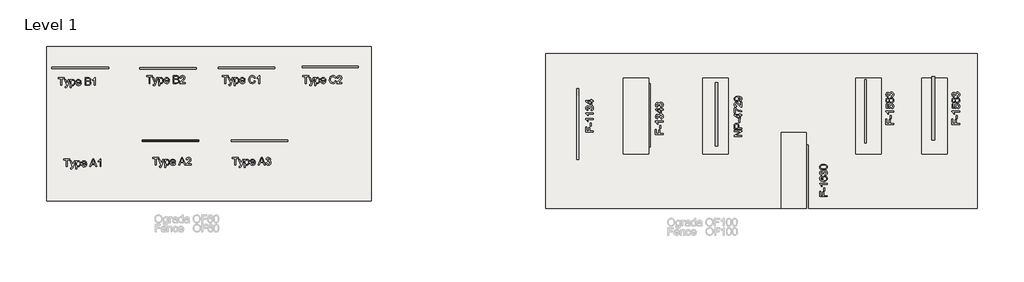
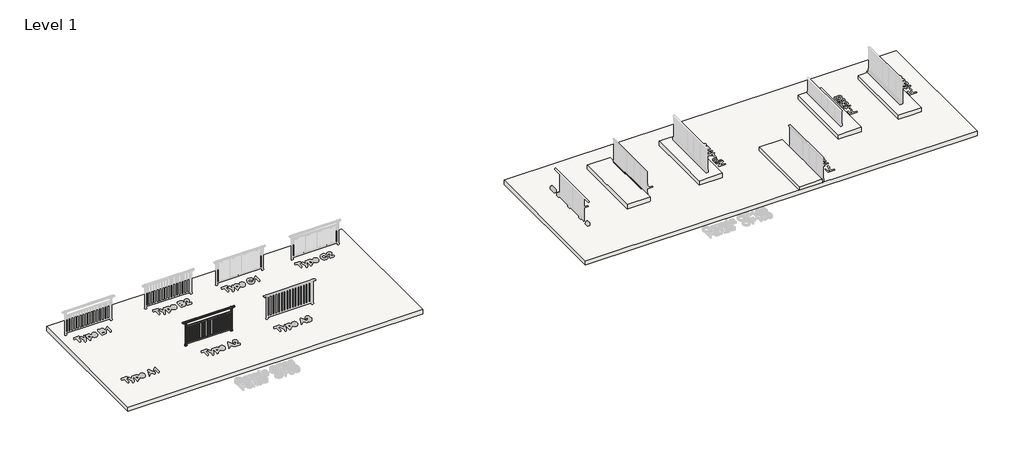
# One storey, part 1 of 9: 7 slabs, 1 railing.
"""IFC4 building model written with IfcOpenShell, lengths in millimetres."""

import ifcopenshell
import ifcopenshell.guid

model = None  # the IFC model being written
_history = None  # IfcOwnerHistory: only IFC2X3 demands one
_inside = {}  # id of a spatial element -> (the spatial element, [elements in it])
_under = {}  # id of a project, library or spatial element -> (it, [spatial elements below it])
_declared = {}  # id of a project -> (the project, [libraries it declares])
_typed = {}  # id of a type object -> (the type object, [elements of that type])
_made_of = {}  # id of a material, layer set ... -> (it, [elements and type objects made of it])


def new_model(schema):
    """Start an empty IFC model of exactly this schema.

    Asked for "IFC4X3", IfcOpenShell would pick the latest addendum, in which some entities
    have other attributes; the version numbers below select the first issue.
    IFC2X3 requires an IfcOwnerHistory on every rooted entity: one is made here for all.
    """
    global model, _history
    if schema == "IFC4X3":
        model = ifcopenshell.file(schema_version=(4, 3, 0, 0))
    else:
        model = ifcopenshell.file(schema=schema)
    _inside.clear()
    _under.clear()
    _declared.clear()
    _typed.clear()
    _made_of.clear()
    _history = None
    if model.schema == "IFC2X3":
        org = make("IfcOrganization", Name="unknown")
        user = make(
            "IfcPersonAndOrganization",
            ThePerson=make("IfcPerson", FamilyName="unknown"),
            TheOrganization=org,
        )
        app = make(
            "IfcApplication",
            ApplicationDeveloper=org,
            Version="unknown",
            ApplicationFullName="unknown",
            ApplicationIdentifier="unknown",
        )
        _history = make(
            "IfcOwnerHistory",
            OwningUser=user,
            OwningApplication=app,
            ChangeAction="ADDED",
            CreationDate=0,
        )
    return model


def make(cls, **values):
    """One entity of the class cls with the attributes given. An attribute that is None is left unset."""
    return model.create_entity(
        cls, **{name: value for name, value in values.items() if value is not None}
    )


def rooted(cls, **values):
    """An entity with a GlobalId (a new one), such as an element, a storey or a relation."""
    return make(cls, GlobalId=ifcopenshell.guid.new(), OwnerHistory=_history, **values)


def si_unit(unit_type, name, prefix=None):
    """IfcSIUnit, for example si_unit("LENGTHUNIT", "METRE", prefix="MILLI")."""
    return make("IfcSIUnit", UnitType=unit_type, Prefix=prefix, Name=name)


def assignment(units):
    """IfcUnitAssignment: the units of a project."""
    return None if units is None else make("IfcUnitAssignment", Units=units)


def point(xyz):
    """IfcCartesianPoint."""
    return None if xyz is None else make("IfcCartesianPoint", Coordinates=xyz)


def direction(xyz):
    """IfcDirection."""
    return None if xyz is None else make("IfcDirection", DirectionRatios=xyz)


def frame(location, z_axis=None, x_axis=None):
    """IfcAxis2Placement3D, a coordinate frame: its origin and axes. An axis left out is left unset."""
    return make(
        "IfcAxis2Placement3D",
        Location=point(location),
        Axis=direction(z_axis),
        RefDirection=direction(x_axis),
    )


def frame_2d(location, x_axis=None):
    """IfcAxis2Placement2D, a coordinate frame in the plane: its origin and x axis."""
    return make(
        "IfcAxis2Placement2D", Location=point(location), RefDirection=direction(x_axis)
    )


def origin():
    """The frame at (0, 0, 0) with its axes left unset."""
    return frame((0.0, 0.0, 0.0))


def origin_with_axes():
    """The frame at (0, 0, 0) with the z axis (0, 0, 1) and the x axis (1, 0, 0) written out."""
    return frame((0.0, 0.0, 0.0), z_axis=(0.0, 0.0, 1.0), x_axis=(1.0, 0.0, 0.0))


def place(relative_to, where):
    """IfcLocalPlacement: puts the frame where relative to a parent placement (None: the world)."""
    return make(
        "IfcLocalPlacement", PlacementRelTo=relative_to, RelativePlacement=where
    )


def context(
    kind, dimensions, precision=None, world=None, true_north=None, identifier=None
):
    """IfcGeometricRepresentationContext, for example the 3D "Model" context."""
    return make(
        "IfcGeometricRepresentationContext",
        ContextIdentifier=identifier,
        ContextType=kind,
        CoordinateSpaceDimension=dimensions,
        Precision=precision,
        WorldCoordinateSystem=world,
        TrueNorth=true_north,
    )


def project(units=None, contexts=None):
    """IfcProject with its units and contexts."""
    return rooted(
        "IfcProject",
        Name="project",
        RepresentationContexts=contexts,
        UnitsInContext=assignment(units),
    )


def spatial(cls, under=None, at=None, **own):
    """A site, building, storey or space (cls), placed at a placement, below another one or the project."""
    s = rooted(cls, ObjectPlacement=at, **own)
    if under is not None:
        _under.setdefault(under.id(), (under, []))[1].append(s)
    return s


def polyline(points):
    """IfcPolyline through the points."""
    return make("IfcPolyline", Points=[point(p) for p in points])


def circle_curve(where, radius):
    """IfcCircle in the frame where."""
    return make("IfcCircle", Position=where, Radius=radius)


def trimmed(basis, trim1, trim2, sense, master):
    """IfcTrimmedCurve: the piece of a basis curve between two trims."""
    return make(
        "IfcTrimmedCurve",
        BasisCurve=basis,
        Trim1=trim1,
        Trim2=trim2,
        SenseAgreement=sense,
        MasterRepresentation=master,
    )


def segment(curve, same_sense, transition):
    """IfcCompositeCurveSegment."""
    return make(
        "IfcCompositeCurveSegment",
        Transition=transition,
        SameSense=same_sense,
        ParentCurve=curve,
    )


def composite_curve(segments, self_intersect=None):
    """IfcCompositeCurve: segments joined end to end."""
    return make("IfcCompositeCurve", Segments=segments, SelfIntersect=self_intersect)


def outline(outer, holes=None, kind="AREA"):
    """IfcArbitraryClosedProfileDef: a profile drawn as a closed curve; with holes, ...WithVoids."""
    if holes is None:
        return make("IfcArbitraryClosedProfileDef", ProfileType=kind, OuterCurve=outer)
    return make(
        "IfcArbitraryProfileDefWithVoids",
        ProfileType=kind,
        OuterCurve=outer,
        InnerCurves=holes,
    )


def extrude(swept, where, along, depth):
    """IfcExtrudedAreaSolid: the profile swept, set in the frame where, extruded along a direction by depth."""
    return make(
        "IfcExtrudedAreaSolid",
        SweptArea=swept,
        Position=where,
        ExtrudedDirection=direction(along),
        Depth=depth,
    )


def shape(context_of_items, identifier, shape_type, items):
    """IfcShapeRepresentation: the items that make up one representation, for example the "Body"."""
    return make(
        "IfcShapeRepresentation",
        ContextOfItems=context_of_items,
        RepresentationIdentifier=identifier,
        RepresentationType=shape_type,
        Items=items,
    )


def made_of(thing, what):
    """Note that an element or type object is made of a material, layer set ...; save() writes the relation."""
    if what is not None:
        _made_of.setdefault(what.id(), (what, []))[1].append(thing)
    return thing


def element(
    cls,
    number,
    at=None,
    inside=None,
    cuts=None,
    type_object=None,
    material=None,
    context=None,
    identifier="Body",
    shape_type=None,
    held_by="IfcProductDefinitionShape",
    body=None,
    shapes=None,
    **own,
):
    """One element of the class cls, such as IfcWall. Its Tag is "e" and its number.

    at: its placement. inside: the storey or other place that contains it. cuts: it is an
    opening in that element (IfcRelVoidsElement). A single representation is given by context,
    identifier, shape_type and body (its items); several are given by shapes. held_by: the class
    of the entity that holds the representations. save() writes the other relations.
    """
    e = rooted(cls, Tag="e%d" % number, ObjectPlacement=at, **own)
    if body is not None:
        shapes = [shape(context, identifier, shape_type, body)]
    if shapes is not None:
        e.Representation = make(held_by, Representations=shapes)
    if inside is not None:
        _inside.setdefault(inside.id(), (inside, []))[1].append(e)
    if cuts is not None:
        rooted(
            "IfcRelVoidsElement", RelatingBuildingElement=cuts, RelatedOpeningElement=e
        )
    if type_object is not None:
        _typed.setdefault(type_object.id(), (type_object, []))[1].append(e)
    return made_of(e, material)


def aggregate(whole, parts):
    """IfcRelAggregates: a whole, such as a stair, and the parts it consists of."""
    return rooted("IfcRelAggregates", RelatingObject=whole, RelatedObjects=parts)


def save(model, path):
    """Write the relations noted so far, then the file.

    IfcRelAggregates (storeys below a building ...), IfcRelContainedInSpatialStructure (elements
    in a storey), IfcRelDefinesByType, IfcRelAssociatesMaterial and IfcRelDeclares: one each for
    every whole, place, type object, material and project.
    """
    for whole, parts in _under.values():
        aggregate(whole, parts)
    for where, things in _inside.values():
        rooted(
            "IfcRelContainedInSpatialStructure",
            RelatedElements=things,
            RelatingStructure=where,
        )
    for kind, things in _typed.values():
        rooted("IfcRelDefinesByType", RelatedObjects=things, RelatingType=kind)
    for what, things in _made_of.values():
        rooted("IfcRelAssociatesMaterial", RelatedObjects=things, RelatingMaterial=what)
    for by, libraries in _declared.values():
        rooted("IfcRelDeclares", RelatingContext=by, RelatedDefinitions=libraries)
    model.write(path)


def plane_surface(at):
    """IfcPlane: the flat surface through the origin of the frame at, square to its z axis."""
    return make("IfcPlane", Position=at)


def cylinder_surface(at, radius):
    """IfcCylindricalSurface: all points at the distance radius from the z axis of the frame at."""
    return make("IfcCylindricalSurface", Position=at, Radius=radius)


def advanced_brep(points, edges, surfaces, faces):
    """IfcAdvancedBrep: a solid bounded by faces that lie on surfaces and meet in shared edges.

    An edge is (start, end): straight between two places in points (the first is 0);
    or (start, end, curve); or (start, end, curve, False) where it runs against its curve.
    A face is (place in surfaces, loops), or (place, loops, False) where it looks against
    its surface's normal. A loop lists edges by number (the first is 1), with a minus sign
    where the edge is run from its end to its start. The first loop is the outer one.
    """
    corners = [point(p) for p in points]
    vertices = [make("IfcVertexPoint", VertexGeometry=c) for c in corners]
    made = []
    for start, end, *more in edges:
        made.append(
            make(
                "IfcEdgeCurve",
                EdgeStart=vertices[start],
                EdgeEnd=vertices[end],
                EdgeGeometry=more[0] if more else make("IfcPolyline", Points=[corners[start], corners[end]]),
                SameSense=more[1] if len(more) > 1 else True,
            )
        )
    hull = []
    for where, loops, *sense in faces:
        bounds = []
        for j, loop in enumerate(loops):
            ring = [make("IfcOrientedEdge", EdgeElement=made[abs(k) - 1], Orientation=k > 0) for k in loop]
            bounds.append(
                make(
                    "IfcFaceOuterBound" if j == 0 else "IfcFaceBound",
                    Bound=make("IfcEdgeLoop", EdgeList=ring),
                    Orientation=True,
                )
            )
        hull.append(make("IfcAdvancedFace", Bounds=bounds, FaceSurface=surfaces[where], SameSense=sense[0] if sense else True))
    return make("IfcAdvancedBrep", Outer=make("IfcClosedShell", CfsFaces=hull))


model = new_model("IFC4")

# Units and contexts
model_context = context("Model", 3, world=origin())
ifc_project = project(units=[si_unit("LENGTHUNIT", "METRE", prefix="MILLI")], contexts=[model_context])

# Site, building, storey
site = spatial("IfcSite", under=ifc_project)
building = spatial("IfcBuilding", under=site)
storey = spatial("IfcBuildingStorey", under=building, Name="Level 1", Elevation=0.0)

# Railing
placement = place(None, origin())
element("IfcRailing", 1, ObjectType="OF 60 TYPE A2", at=placement, inside=storey, context=model_context, shape_type="SolidModel", body=[
    advanced_brep(
    [(420.442876, -911.6139415, 1092.0), (420.442876, -919.6139415, 1100.0), (2420.442876, -919.6139415, 1100.0), (2420.442876, -911.6139415, 1092.0), (420.442876, -911.6139415, 1064.0), (2420.442876, -911.6139415, 1064.0), (420.442876, -915.6139415, 1060.0), (2420.442876, -915.6139415, 1060.0), (420.442876, -967.6139415, 1060.0), (2420.442876, -967.6139415, 1060.0), (420.442876, -971.6139415, 1064.0), (2420.442876, -971.6139415, 1064.0), (420.442876, -971.6139415, 1092.0), (2420.442876, -971.6139415, 1092.0), (420.442876, -963.6139415, 1100.0), (2420.442876, -963.6139415, 1100.0), (303.4448693, -919.6139415, 1100.0), (303.4448693, -911.6139415, 1092.0), (303.4448693, -911.6139415, 1064.0), (303.4448693, -915.6139415, 1060.0), (303.4448693, -967.6139415, 1060.0), (303.4448693, -971.6139415, 1064.0), (303.4448693, -971.6139415, 1092.0), (303.4448693, -963.6139415, 1100.0), (2537.4408826, -919.6139415, 1100.0), (2537.4408826, -963.6139415, 1100.0), (2537.4408826, -971.6139415, 1092.0), (2537.4408826, -971.6139415, 1064.0), (2537.4408826, -967.6139415, 1060.0), (2537.4408826, -915.6139415, 1060.0), (2537.4408826, -911.6139415, 1064.0), (2537.4408826, -911.6139415, 1092.0)],
    [
        (0, 1, circle_curve(frame((420.442876, -919.6139415, 1092.0), z_axis=(1.0, 0.0, 0.0), x_axis=(0.0, 1.0, 0.0)), 8.0)),
        (1, 2),
        (2, 3, circle_curve(frame((2420.442876, -919.6139415, 1092.0), z_axis=(-1.0, 0.0, 0.0), x_axis=(0.0, 1.0, 0.0)), 8.0)),
        (3, 0),
        (4, 0),
        (3, 5),
        (5, 4),
        (6, 4, circle_curve(frame((420.442876, -915.6139415, 1064.0), z_axis=(1.0, 0.0, 0.0), x_axis=(0.0, 0.0, -1.0)), 4.0)),
        (5, 7, circle_curve(frame((2420.442876, -915.6139415, 1064.0), z_axis=(-1.0, 0.0, 0.0), x_axis=(0.0, 0.0, -1.0)), 4.0)),
        (7, 6),
        (8, 6),
        (7, 9),
        (9, 8),
        (10, 8, circle_curve(frame((420.442876, -967.6139415, 1064.0), z_axis=(1.0, 0.0, 0.0), x_axis=(0.0, -1.0, 0.0)), 4.0)),
        (9, 11, circle_curve(frame((2420.442876, -967.6139415, 1064.0), z_axis=(-1.0, 0.0, 0.0), x_axis=(0.0, -1.0, 0.0)), 4.0)),
        (11, 10),
        (12, 10),
        (11, 13),
        (13, 12),
        (14, 12, circle_curve(frame((420.442876, -963.6139415, 1092.0), z_axis=(1.0, 0.0, 0.0), x_axis=(0.0, 0.0, 1.0)), 8.0)),
        (13, 15, circle_curve(frame((2420.442876, -963.6139415, 1092.0), z_axis=(-1.0, 0.0, 0.0), x_axis=(0.0, 0.0, 1.0)), 8.0)),
        (15, 14),
        (1, 14),
        (15, 2),
        (16, 17, circle_curve(frame((303.4448693, -919.6139415, 1092.0), z_axis=(-1.0, 0.0, 0.0), x_axis=(0.0, 1.0, 0.0)), 8.0)),
        (17, 18),
        (18, 19, circle_curve(frame((303.4448693, -915.6139415, 1064.0), z_axis=(-1.0, 0.0, 0.0), x_axis=(0.0, 0.0, -1.0)), 4.0)),
        (19, 20),
        (20, 21, circle_curve(frame((303.4448693, -967.6139415, 1064.0), z_axis=(-1.0, 0.0, 0.0), x_axis=(0.0, -1.0, 0.0)), 4.0)),
        (21, 22),
        (22, 23, circle_curve(frame((303.4448693, -963.6139415, 1092.0), z_axis=(-1.0, 0.0, 0.0), x_axis=(0.0, 0.0, 1.0)), 8.0)),
        (23, 16),
        (16, 1),
        (0, 17),
        (4, 18),
        (6, 19),
        (8, 20),
        (10, 21),
        (12, 22),
        (14, 23),
        (24, 25),
        (25, 26, circle_curve(frame((2537.4408826, -963.6139415, 1092.0), z_axis=(1.0, 0.0, 0.0), x_axis=(0.0, 0.0, 1.0)), 8.0)),
        (26, 27),
        (27, 28, circle_curve(frame((2537.4408826, -967.6139415, 1064.0), z_axis=(1.0, 0.0, 0.0), x_axis=(0.0, -1.0, 0.0)), 4.0)),
        (28, 29),
        (29, 30, circle_curve(frame((2537.4408826, -915.6139415, 1064.0), z_axis=(1.0, 0.0, 0.0), x_axis=(0.0, 0.0, -1.0)), 4.0)),
        (30, 31),
        (31, 24, circle_curve(frame((2537.4408826, -919.6139415, 1092.0), z_axis=(1.0, 0.0, 0.0), x_axis=(0.0, 1.0, 0.0)), 8.0)),
        (2, 24),
        (31, 3),
        (30, 5),
        (29, 7),
        (28, 9),
        (27, 11),
        (26, 13),
        (25, 15),
    ],
    [
        cylinder_surface(frame((420.442876, -919.6139415, 1092.0), z_axis=(-1.0, 0.0, 0.0), x_axis=(0.0, 1.0, 0.0)), 8.0),
        plane_surface(frame((420.442876, -911.6139415, 1092.0), z_axis=(0.0, 1.0, 0.0), x_axis=(1.0, 0.0, 0.0))),
        cylinder_surface(frame((420.442876, -915.6139415, 1064.0), z_axis=(-1.0, 0.0, 0.0), x_axis=(0.0, 0.0, -1.0)), 4.0),
        plane_surface(frame((420.442876, -915.6139415, 1060.0), z_axis=(0.0, 0.0, -1.0), x_axis=(1.0, 0.0, 0.0))),
        cylinder_surface(frame((420.442876, -967.6139415, 1064.0), z_axis=(-1.0, 0.0, 0.0), x_axis=(0.0, -1.0, 0.0)), 4.0),
        plane_surface(frame((420.442876, -971.6139415, 1064.0), z_axis=(0.0, -1.0, 0.0), x_axis=(1.0, 0.0, 0.0))),
        cylinder_surface(frame((420.442876, -963.6139415, 1092.0), z_axis=(-1.0, 0.0, 0.0), x_axis=(0.0, 0.0, 1.0)), 8.0),
        plane_surface(frame((420.442876, -963.6139415, 1100.0), z_axis=(0.0, 0.0, 1.0), x_axis=(1.0, 0.0, 0.0))),
        plane_surface(frame((303.4448693, -911.6139415, 1100.0), z_axis=(-1.0, 0.0, 0.0), x_axis=(0.0, 1.0, 0.0))),
        cylinder_surface(frame((303.4448693, -919.6139415, 1092.0), z_axis=(-1.0, 0.0, 0.0), x_axis=(0.0, 1.0, 0.0)), 8.0),
        plane_surface(frame((303.4448693, -911.6139415, 1092.0), z_axis=(0.0, 1.0, 0.0), x_axis=(1.0, 0.0, 0.0))),
        cylinder_surface(frame((303.4448693, -915.6139415, 1064.0), z_axis=(-1.0, 0.0, 0.0), x_axis=(0.0, 0.0, -1.0)), 4.0),
        plane_surface(frame((303.4448693, -915.6139415, 1060.0), z_axis=(0.0, 0.0, -1.0), x_axis=(1.0, 0.0, 0.0))),
        cylinder_surface(frame((303.4448693, -967.6139415, 1064.0), z_axis=(-1.0, 0.0, 0.0), x_axis=(0.0, -1.0, 0.0)), 4.0),
        plane_surface(frame((303.4448693, -971.6139415, 1064.0), z_axis=(0.0, -1.0, 0.0), x_axis=(1.0, 0.0, 0.0))),
        cylinder_surface(frame((303.4448693, -963.6139415, 1092.0), z_axis=(-1.0, 0.0, 0.0), x_axis=(0.0, 0.0, 1.0)), 8.0),
        plane_surface(frame((303.4448693, -963.6139415, 1100.0), z_axis=(0.0, 0.0, 1.0), x_axis=(1.0, 0.0, 0.0))),
        plane_surface(frame((2537.4408826, -911.6139415, 1100.0), z_axis=(1.0, 0.0, 0.0), x_axis=(0.0, 1.0, 0.0))),
        cylinder_surface(frame((2420.442876, -919.6139415, 1092.0), z_axis=(-1.0, 0.0, 0.0), x_axis=(0.0, 1.0, 0.0)), 8.0),
        plane_surface(frame((2420.442876, -911.6139415, 1092.0), z_axis=(0.0, 1.0, 0.0), x_axis=(1.0, 0.0, 0.0))),
        cylinder_surface(frame((2420.442876, -915.6139415, 1064.0), z_axis=(-1.0, 0.0, 0.0), x_axis=(0.0, 0.0, -1.0)), 4.0),
        plane_surface(frame((2420.442876, -915.6139415, 1060.0), z_axis=(0.0, 0.0, -1.0), x_axis=(1.0, 0.0, 0.0))),
        cylinder_surface(frame((2420.442876, -967.6139415, 1064.0), z_axis=(-1.0, 0.0, 0.0), x_axis=(0.0, -1.0, 0.0)), 4.0),
        plane_surface(frame((2420.442876, -971.6139415, 1064.0), z_axis=(0.0, -1.0, 0.0), x_axis=(1.0, 0.0, 0.0))),
        cylinder_surface(frame((2420.442876, -963.6139415, 1092.0), z_axis=(-1.0, 0.0, 0.0), x_axis=(0.0, 0.0, 1.0)), 8.0),
        plane_surface(frame((2420.442876, -963.6139415, 1100.0), z_axis=(0.0, 0.0, 1.0), x_axis=(1.0, 0.0, 0.0))),
    ],
    [
        (0, [[1, 2, 3, 4]]),
        (1, [[5, -4, 6, 7]]),
        (2, [[8, -7, 9, 10]]),
        (3, [[11, -10, 12, 13]]),
        (4, [[14, -13, 15, 16]]),
        (5, [[17, -16, 18, 19]]),
        (6, [[20, -19, 21, 22]]),
        (7, [[23, -22, 24, -2]]),
        (8, [[25, 26, 27, 28, 29, 30, 31, 32]]),
        (9, [[-25, 33, -1, 34]]),
        (10, [[-26, -34, -5, 35]]),
        (11, [[-27, -35, -8, 36]]),
        (12, [[-28, -36, -11, 37]]),
        (13, [[-29, -37, -14, 38]]),
        (14, [[-30, -38, -17, 39]]),
        (15, [[-31, -39, -20, 40]]),
        (16, [[-32, -40, -23, -33]]),
        (17, [[41, 42, 43, 44, 45, 46, 47, 48]]),
        (18, [[-3, 49, -48, 50]]),
        (19, [[-6, -50, -47, 51]]),
        (20, [[-9, -51, -46, 52]]),
        (21, [[-12, -52, -45, 53]]),
        (22, [[-15, -53, -44, 54]]),
        (23, [[-18, -54, -43, 55]]),
        (24, [[-21, -55, -42, 56]]),
        (25, [[-24, -56, -41, -49]]),
    ],
),
    extrude(outline(polyline([(420.442876, -964.1139415), (420.442876, -924.1139415), (2420.442876, -924.1139415), (2420.442876, -964.1139415), (420.442876, -964.1139415)])), frame((0.0, 0.0, 860.0), z_axis=(0.0, 0.0, 1.0), x_axis=(1.0, 0.0, 0.0)), (0.0, 0.0, 1.0), 40.0),
    extrude(outline(polyline([(420.442876, -964.1139415), (420.442876, -924.1139415), (2420.442876, -924.1139415), (2420.442876, -964.1139415), (420.442876, -964.1139415)])), frame((0.0, 0.0, 80.0), z_axis=(0.0, 0.0, 1.0), x_axis=(1.0, 0.0, 0.0)), (0.0, 0.0, 1.0), 40.0),
    extrude(outline(composite_curve([segment(trimmed(circle_curve(frame_2d((2320.442876, -941.6139415)), 5.0), [point((2315.442876, -941.6139415))], [point((2320.442876, -936.6139415))], False, "CARTESIAN"), True, "CONTINUOUS"), segment(polyline([(2320.442876, -936.6139415), (2360.442876, -936.6139415)]), True, "CONTINUOUS"), segment(trimmed(circle_curve(frame_2d((2360.442876, -941.6139415)), 5.0), [point((2360.442876, -936.6139415))], [point((2365.442876, -941.6139415))], False, "CARTESIAN"), True, "CONTINUOUS"), segment(trimmed(circle_curve(frame_2d((2360.442876, -941.6139415)), 5.0), [point((2365.442876, -941.6139415))], [point((2360.442876, -946.6139415))], False, "CARTESIAN"), True, "CONTINUOUS"), segment(polyline([(2360.442876, -946.6139415), (2320.442876, -946.6139415)]), True, "CONTINUOUS"), segment(trimmed(circle_curve(frame_2d((2320.442876, -941.6139415)), 5.0), [point((2320.442876, -946.6139415))], [point((2315.442876, -941.6139415))], False, "CARTESIAN"), True, "CONTINUOUS")], self_intersect=False)), frame((0.0, 0.0, 120.0), z_axis=(0.0, 0.0, 1.0), x_axis=(1.0, 0.0, 0.0)), (0.0, 0.0, 1.0), 740.0),
    extrude(outline(composite_curve([segment(trimmed(circle_curve(frame_2d((2200.442876, -941.6139415)), 5.0), [point((2195.442876, -941.6139415))], [point((2200.442876, -936.6139415))], False, "CARTESIAN"), True, "CONTINUOUS"), segment(polyline([(2200.442876, -936.6139415), (2240.442876, -936.6139415)]), True, "CONTINUOUS"), segment(trimmed(circle_curve(frame_2d((2240.442876, -941.6139415)), 5.0), [point((2240.442876, -936.6139415))], [point((2245.442876, -941.6139415))], False, "CARTESIAN"), True, "CONTINUOUS"), segment(trimmed(circle_curve(frame_2d((2240.442876, -941.6139415)), 5.0), [point((2245.442876, -941.6139415))], [point((2240.442876, -946.6139415))], False, "CARTESIAN"), True, "CONTINUOUS"), segment(polyline([(2240.442876, -946.6139415), (2200.442876, -946.6139415)]), True, "CONTINUOUS"), segment(trimmed(circle_curve(frame_2d((2200.442876, -941.6139415)), 5.0), [point((2200.442876, -946.6139415))], [point((2195.442876, -941.6139415))], False, "CARTESIAN"), True, "CONTINUOUS")], self_intersect=False)), frame((0.0, 0.0, 120.0), z_axis=(0.0, 0.0, 1.0), x_axis=(1.0, 0.0, 0.0)), (0.0, 0.0, 1.0), 740.0),
    extrude(outline(composite_curve([segment(trimmed(circle_curve(frame_2d((2080.442876, -941.6139415)), 5.0), [point((2075.442876, -941.6139415))], [point((2080.442876, -936.6139415))], False, "CARTESIAN"), True, "CONTINUOUS"), segment(polyline([(2080.442876, -936.6139415), (2120.442876, -936.6139415)]), True, "CONTINUOUS"), segment(trimmed(circle_curve(frame_2d((2120.442876, -941.6139415)), 5.0), [point((2120.442876, -936.6139415))], [point((2125.442876, -941.6139415))], False, "CARTESIAN"), True, "CONTINUOUS"), segment(trimmed(circle_curve(frame_2d((2120.442876, -941.6139415)), 5.0), [point((2125.442876, -941.6139415))], [point((2120.442876, -946.6139415))], False, "CARTESIAN"), True, "CONTINUOUS"), segment(polyline([(2120.442876, -946.6139415), (2080.442876, -946.6139415)]), True, "CONTINUOUS"), segment(trimmed(circle_curve(frame_2d((2080.442876, -941.6139415)), 5.0), [point((2080.442876, -946.6139415))], [point((2075.442876, -941.6139415))], False, "CARTESIAN"), True, "CONTINUOUS")], self_intersect=False)), frame((0.0, 0.0, 120.0), z_axis=(0.0, 0.0, 1.0), x_axis=(1.0, 0.0, 0.0)), (0.0, 0.0, 1.0), 740.0),
    extrude(outline(composite_curve([segment(trimmed(circle_curve(frame_2d((1960.442876, -941.6139415)), 5.0), [point((1955.442876, -941.6139415))], [point((1960.442876, -936.6139415))], False, "CARTESIAN"), True, "CONTINUOUS"), segment(polyline([(1960.442876, -936.6139415), (2000.442876, -936.6139415)]), True, "CONTINUOUS"), segment(trimmed(circle_curve(frame_2d((2000.442876, -941.6139415)), 5.0), [point((2000.442876, -936.6139415))], [point((2005.442876, -941.6139415))], False, "CARTESIAN"), True, "CONTINUOUS"), segment(trimmed(circle_curve(frame_2d((2000.442876, -941.6139415)), 5.0), [point((2005.442876, -941.6139415))], [point((2000.442876, -946.6139415))], False, "CARTESIAN"), True, "CONTINUOUS"), segment(polyline([(2000.442876, -946.6139415), (1960.442876, -946.6139415)]), True, "CONTINUOUS"), segment(trimmed(circle_curve(frame_2d((1960.442876, -941.6139415)), 5.0), [point((1960.442876, -946.6139415))], [point((1955.442876, -941.6139415))], False, "CARTESIAN"), True, "CONTINUOUS")], self_intersect=False)), frame((0.0, 0.0, 120.0), z_axis=(0.0, 0.0, 1.0), x_axis=(1.0, 0.0, 0.0)), (0.0, 0.0, 1.0), 740.0),
    extrude(outline(composite_curve([segment(trimmed(circle_curve(frame_2d((1840.442876, -941.6139415)), 5.0), [point((1835.442876, -941.6139415))], [point((1840.442876, -936.6139415))], False, "CARTESIAN"), True, "CONTINUOUS"), segment(polyline([(1840.442876, -936.6139415), (1880.442876, -936.6139415)]), True, "CONTINUOUS"), segment(trimmed(circle_curve(frame_2d((1880.442876, -941.6139415)), 5.0), [point((1880.442876, -936.6139415))], [point((1885.442876, -941.6139415))], False, "CARTESIAN"), True, "CONTINUOUS"), segment(trimmed(circle_curve(frame_2d((1880.442876, -941.6139415)), 5.0), [point((1885.442876, -941.6139415))], [point((1880.442876, -946.6139415))], False, "CARTESIAN"), True, "CONTINUOUS"), segment(polyline([(1880.442876, -946.6139415), (1840.442876, -946.6139415)]), True, "CONTINUOUS"), segment(trimmed(circle_curve(frame_2d((1840.442876, -941.6139415)), 5.0), [point((1840.442876, -946.6139415))], [point((1835.442876, -941.6139415))], False, "CARTESIAN"), True, "CONTINUOUS")], self_intersect=False)), frame((0.0, 0.0, 120.0), z_axis=(0.0, 0.0, 1.0), x_axis=(1.0, 0.0, 0.0)), (0.0, 0.0, 1.0), 740.0),
    extrude(outline(composite_curve([segment(trimmed(circle_curve(frame_2d((1720.442876, -941.6139415)), 5.0), [point((1715.442876, -941.6139415))], [point((1720.442876, -936.6139415))], False, "CARTESIAN"), True, "CONTINUOUS"), segment(polyline([(1720.442876, -936.6139415), (1760.442876, -936.6139415)]), True, "CONTINUOUS"), segment(trimmed(circle_curve(frame_2d((1760.442876, -941.6139415)), 5.0), [point((1760.442876, -936.6139415))], [point((1765.442876, -941.6139415))], False, "CARTESIAN"), True, "CONTINUOUS"), segment(trimmed(circle_curve(frame_2d((1760.442876, -941.6139415)), 5.0), [point((1765.442876, -941.6139415))], [point((1760.442876, -946.6139415))], False, "CARTESIAN"), True, "CONTINUOUS"), segment(polyline([(1760.442876, -946.6139415), (1720.442876, -946.6139415)]), True, "CONTINUOUS"), segment(trimmed(circle_curve(frame_2d((1720.442876, -941.6139415)), 5.0), [point((1720.442876, -946.6139415))], [point((1715.442876, -941.6139415))], False, "CARTESIAN"), True, "CONTINUOUS")], self_intersect=False)), frame((0.0, 0.0, 120.0), z_axis=(0.0, 0.0, 1.0), x_axis=(1.0, 0.0, 0.0)), (0.0, 0.0, 1.0), 740.0),
    extrude(outline(composite_curve([segment(trimmed(circle_curve(frame_2d((1600.442876, -941.6139415)), 5.0), [point((1595.442876, -941.6139415))], [point((1600.442876, -936.6139415))], False, "CARTESIAN"), True, "CONTINUOUS"), segment(polyline([(1600.442876, -936.6139415), (1640.442876, -936.6139415)]), True, "CONTINUOUS"), segment(trimmed(circle_curve(frame_2d((1640.442876, -941.6139415)), 5.0), [point((1640.442876, -936.6139415))], [point((1645.442876, -941.6139415))], False, "CARTESIAN"), True, "CONTINUOUS"), segment(trimmed(circle_curve(frame_2d((1640.442876, -941.6139415)), 5.0), [point((1645.442876, -941.6139415))], [point((1640.442876, -946.6139415))], False, "CARTESIAN"), True, "CONTINUOUS"), segment(polyline([(1640.442876, -946.6139415), (1600.442876, -946.6139415)]), True, "CONTINUOUS"), segment(trimmed(circle_curve(frame_2d((1600.442876, -941.6139415)), 5.0), [point((1600.442876, -946.6139415))], [point((1595.442876, -941.6139415))], False, "CARTESIAN"), True, "CONTINUOUS")], self_intersect=False)), frame((0.0, 0.0, 120.0), z_axis=(0.0, 0.0, 1.0), x_axis=(1.0, 0.0, 0.0)), (0.0, 0.0, 1.0), 740.0),
    extrude(outline(composite_curve([segment(trimmed(circle_curve(frame_2d((1480.442876, -941.6139415)), 5.0), [point((1475.442876, -941.6139415))], [point((1480.442876, -936.6139415))], False, "CARTESIAN"), True, "CONTINUOUS"), segment(polyline([(1480.442876, -936.6139415), (1520.442876, -936.6139415)]), True, "CONTINUOUS"), segment(trimmed(circle_curve(frame_2d((1520.442876, -941.6139415)), 5.0), [point((1520.442876, -936.6139415))], [point((1525.442876, -941.6139415))], False, "CARTESIAN"), True, "CONTINUOUS"), segment(trimmed(circle_curve(frame_2d((1520.442876, -941.6139415)), 5.0), [point((1525.442876, -941.6139415))], [point((1520.442876, -946.6139415))], False, "CARTESIAN"), True, "CONTINUOUS"), segment(polyline([(1520.442876, -946.6139415), (1480.442876, -946.6139415)]), True, "CONTINUOUS"), segment(trimmed(circle_curve(frame_2d((1480.442876, -941.6139415)), 5.0), [point((1480.442876, -946.6139415))], [point((1475.442876, -941.6139415))], False, "CARTESIAN"), True, "CONTINUOUS")], self_intersect=False)), frame((0.0, 0.0, 120.0), z_axis=(0.0, 0.0, 1.0), x_axis=(1.0, 0.0, 0.0)), (0.0, 0.0, 1.0), 740.0),
    extrude(outline(composite_curve([segment(trimmed(circle_curve(frame_2d((1360.442876, -941.6139415)), 5.0), [point((1355.442876, -941.6139415))], [point((1360.442876, -936.6139415))], False, "CARTESIAN"), True, "CONTINUOUS"), segment(polyline([(1360.442876, -936.6139415), (1400.442876, -936.6139415)]), True, "CONTINUOUS"), segment(trimmed(circle_curve(frame_2d((1400.442876, -941.6139415)), 5.0), [point((1400.442876, -936.6139415))], [point((1405.442876, -941.6139415))], False, "CARTESIAN"), True, "CONTINUOUS"), segment(trimmed(circle_curve(frame_2d((1400.442876, -941.6139415)), 5.0), [point((1405.442876, -941.6139415))], [point((1400.442876, -946.6139415))], False, "CARTESIAN"), True, "CONTINUOUS"), segment(polyline([(1400.442876, -946.6139415), (1360.442876, -946.6139415)]), True, "CONTINUOUS"), segment(trimmed(circle_curve(frame_2d((1360.442876, -941.6139415)), 5.0), [point((1360.442876, -946.6139415))], [point((1355.442876, -941.6139415))], False, "CARTESIAN"), True, "CONTINUOUS")], self_intersect=False)), frame((0.0, 0.0, 120.0), z_axis=(0.0, 0.0, 1.0), x_axis=(1.0, 0.0, 0.0)), (0.0, 0.0, 1.0), 740.0),
    extrude(outline(composite_curve([segment(trimmed(circle_curve(frame_2d((1240.442876, -941.6139415)), 5.0), [point((1235.442876, -941.6139415))], [point((1240.442876, -936.6139415))], False, "CARTESIAN"), True, "CONTINUOUS"), segment(polyline([(1240.442876, -936.6139415), (1280.442876, -936.6139415)]), True, "CONTINUOUS"), segment(trimmed(circle_curve(frame_2d((1280.442876, -941.6139415)), 5.0), [point((1280.442876, -936.6139415))], [point((1285.442876, -941.6139415))], False, "CARTESIAN"), True, "CONTINUOUS"), segment(trimmed(circle_curve(frame_2d((1280.442876, -941.6139415)), 5.0), [point((1285.442876, -941.6139415))], [point((1280.442876, -946.6139415))], False, "CARTESIAN"), True, "CONTINUOUS"), segment(polyline([(1280.442876, -946.6139415), (1240.442876, -946.6139415)]), True, "CONTINUOUS"), segment(trimmed(circle_curve(frame_2d((1240.442876, -941.6139415)), 5.0), [point((1240.442876, -946.6139415))], [point((1235.442876, -941.6139415))], False, "CARTESIAN"), True, "CONTINUOUS")], self_intersect=False)), frame((0.0, 0.0, 120.0), z_axis=(0.0, 0.0, 1.0), x_axis=(1.0, 0.0, 0.0)), (0.0, 0.0, 1.0), 740.0),
    extrude(outline(composite_curve([segment(trimmed(circle_curve(frame_2d((1120.442876, -941.6139415)), 5.0), [point((1115.442876, -941.6139415))], [point((1120.442876, -936.6139415))], False, "CARTESIAN"), True, "CONTINUOUS"), segment(polyline([(1120.442876, -936.6139415), (1160.442876, -936.6139415)]), True, "CONTINUOUS"), segment(trimmed(circle_curve(frame_2d((1160.442876, -941.6139415)), 5.0), [point((1160.442876, -936.6139415))], [point((1165.442876, -941.6139415))], False, "CARTESIAN"), True, "CONTINUOUS"), segment(trimmed(circle_curve(frame_2d((1160.442876, -941.6139415)), 5.0), [point((1165.442876, -941.6139415))], [point((1160.442876, -946.6139415))], False, "CARTESIAN"), True, "CONTINUOUS"), segment(polyline([(1160.442876, -946.6139415), (1120.442876, -946.6139415)]), True, "CONTINUOUS"), segment(trimmed(circle_curve(frame_2d((1120.442876, -941.6139415)), 5.0), [point((1120.442876, -946.6139415))], [point((1115.442876, -941.6139415))], False, "CARTESIAN"), True, "CONTINUOUS")], self_intersect=False)), frame((0.0, 0.0, 120.0), z_axis=(0.0, 0.0, 1.0), x_axis=(1.0, 0.0, 0.0)), (0.0, 0.0, 1.0), 740.0),
    extrude(outline(composite_curve([segment(trimmed(circle_curve(frame_2d((1000.442876, -941.6139415)), 5.0), [point((995.442876, -941.6139415))], [point((1000.442876, -936.6139415))], False, "CARTESIAN"), True, "CONTINUOUS"), segment(polyline([(1000.442876, -936.6139415), (1040.442876, -936.6139415)]), True, "CONTINUOUS"), segment(trimmed(circle_curve(frame_2d((1040.442876, -941.6139415)), 5.0), [point((1040.442876, -936.6139415))], [point((1045.442876, -941.6139415))], False, "CARTESIAN"), True, "CONTINUOUS"), segment(trimmed(circle_curve(frame_2d((1040.442876, -941.6139415)), 5.0), [point((1045.442876, -941.6139415))], [point((1040.442876, -946.6139415))], False, "CARTESIAN"), True, "CONTINUOUS"), segment(polyline([(1040.442876, -946.6139415), (1000.442876, -946.6139415)]), True, "CONTINUOUS"), segment(trimmed(circle_curve(frame_2d((1000.442876, -941.6139415)), 5.0), [point((1000.442876, -946.6139415))], [point((995.442876, -941.6139415))], False, "CARTESIAN"), True, "CONTINUOUS")], self_intersect=False)), frame((0.0, 0.0, 120.0), z_axis=(0.0, 0.0, 1.0), x_axis=(1.0, 0.0, 0.0)), (0.0, 0.0, 1.0), 740.0),
    extrude(outline(composite_curve([segment(trimmed(circle_curve(frame_2d((880.442876, -941.6139415)), 5.0), [point((875.442876, -941.6139415))], [point((880.442876, -936.6139415))], False, "CARTESIAN"), True, "CONTINUOUS"), segment(polyline([(880.442876, -936.6139415), (920.442876, -936.6139415)]), True, "CONTINUOUS"), segment(trimmed(circle_curve(frame_2d((920.442876, -941.6139415)), 5.0), [point((920.442876, -936.6139415))], [point((925.442876, -941.6139415))], False, "CARTESIAN"), True, "CONTINUOUS"), segment(trimmed(circle_curve(frame_2d((920.442876, -941.6139415)), 5.0), [point((925.442876, -941.6139415))], [point((920.442876, -946.6139415))], False, "CARTESIAN"), True, "CONTINUOUS"), segment(polyline([(920.442876, -946.6139415), (880.442876, -946.6139415)]), True, "CONTINUOUS"), segment(trimmed(circle_curve(frame_2d((880.442876, -941.6139415)), 5.0), [point((880.442876, -946.6139415))], [point((875.442876, -941.6139415))], False, "CARTESIAN"), True, "CONTINUOUS")], self_intersect=False)), frame((0.0, 0.0, 120.0), z_axis=(0.0, 0.0, 1.0), x_axis=(1.0, 0.0, 0.0)), (0.0, 0.0, 1.0), 740.0),
    extrude(outline(composite_curve([segment(trimmed(circle_curve(frame_2d((760.442876, -941.6139415)), 5.0), [point((755.442876, -941.6139415))], [point((760.442876, -936.6139415))], False, "CARTESIAN"), True, "CONTINUOUS"), segment(polyline([(760.442876, -936.6139415), (800.442876, -936.6139415)]), True, "CONTINUOUS"), segment(trimmed(circle_curve(frame_2d((800.442876, -941.6139415)), 5.0), [point((800.442876, -936.6139415))], [point((805.442876, -941.6139415))], False, "CARTESIAN"), True, "CONTINUOUS"), segment(trimmed(circle_curve(frame_2d((800.442876, -941.6139415)), 5.0), [point((805.442876, -941.6139415))], [point((800.442876, -946.6139415))], False, "CARTESIAN"), True, "CONTINUOUS"), segment(polyline([(800.442876, -946.6139415), (760.442876, -946.6139415)]), True, "CONTINUOUS"), segment(trimmed(circle_curve(frame_2d((760.442876, -941.6139415)), 5.0), [point((760.442876, -946.6139415))], [point((755.442876, -941.6139415))], False, "CARTESIAN"), True, "CONTINUOUS")], self_intersect=False)), frame((0.0, 0.0, 120.0), z_axis=(0.0, 0.0, 1.0), x_axis=(1.0, 0.0, 0.0)), (0.0, 0.0, 1.0), 740.0),
    extrude(outline(composite_curve([segment(trimmed(circle_curve(frame_2d((640.442876, -941.6139415)), 5.0), [point((635.442876, -941.6139415))], [point((640.442876, -936.6139415))], False, "CARTESIAN"), True, "CONTINUOUS"), segment(polyline([(640.442876, -936.6139415), (680.442876, -936.6139415)]), True, "CONTINUOUS"), segment(trimmed(circle_curve(frame_2d((680.442876, -941.6139415)), 5.0), [point((680.442876, -936.6139415))], [point((685.442876, -941.6139415))], False, "CARTESIAN"), True, "CONTINUOUS"), segment(trimmed(circle_curve(frame_2d((680.442876, -941.6139415)), 5.0), [point((685.442876, -941.6139415))], [point((680.442876, -946.6139415))], False, "CARTESIAN"), True, "CONTINUOUS"), segment(polyline([(680.442876, -946.6139415), (640.442876, -946.6139415)]), True, "CONTINUOUS"), segment(trimmed(circle_curve(frame_2d((640.442876, -941.6139415)), 5.0), [point((640.442876, -946.6139415))], [point((635.442876, -941.6139415))], False, "CARTESIAN"), True, "CONTINUOUS")], self_intersect=False)), frame((0.0, 0.0, 120.0), z_axis=(0.0, 0.0, 1.0), x_axis=(1.0, 0.0, 0.0)), (0.0, 0.0, 1.0), 740.0),
    extrude(outline(composite_curve([segment(trimmed(circle_curve(frame_2d((520.442876, -941.6139415)), 5.0), [point((515.442876, -941.6139415))], [point((520.442876, -936.6139415))], False, "CARTESIAN"), True, "CONTINUOUS"), segment(polyline([(520.442876, -936.6139415), (560.442876, -936.6139415)]), True, "CONTINUOUS"), segment(trimmed(circle_curve(frame_2d((560.442876, -941.6139415)), 5.0), [point((560.442876, -936.6139415))], [point((565.442876, -941.6139415))], False, "CARTESIAN"), True, "CONTINUOUS"), segment(trimmed(circle_curve(frame_2d((560.442876, -941.6139415)), 5.0), [point((565.442876, -941.6139415))], [point((560.442876, -946.6139415))], False, "CARTESIAN"), True, "CONTINUOUS"), segment(polyline([(560.442876, -946.6139415), (520.442876, -946.6139415)]), True, "CONTINUOUS"), segment(trimmed(circle_curve(frame_2d((520.442876, -941.6139415)), 5.0), [point((520.442876, -946.6139415))], [point((515.442876, -941.6139415))], False, "CARTESIAN"), True, "CONTINUOUS")], self_intersect=False)), frame((0.0, 0.0, 120.0), z_axis=(0.0, 0.0, 1.0), x_axis=(1.0, 0.0, 0.0)), (0.0, 0.0, 1.0), 740.0),
    extrude(outline(composite_curve([segment(polyline([(2426.9733759, -967.6023402), (2412.942876, -969.3639415), (2402.942876, -969.3639415), (2388.9123761, -967.6023402)]), True, "CONTINUOUS"), segment(trimmed(circle_curve(frame_2d((2389.0618686, -966.4116883)), 1.2), [point((2388.9123761, -967.6023402))], [point((2387.8656248, -966.5065611))], False, "CARTESIAN"), True, "CONTINUOUS"), segment(polyline([(2387.8656248, -966.5065611), (2386.8708827, -953.9639415)]), True, "CONTINUOUS"), segment(trimmed(circle_curve(frame_2d((2622.1627703, -941.6139415)), 235.6157782), [point((2386.8708827, -953.9639415))], [point((2386.8708827, -929.2639414))], False, "CARTESIAN"), True, "CONTINUOUS"), segment(polyline([(2386.8708827, -929.2639414), (2387.8656248, -916.7213218)]), True, "CONTINUOUS"), segment(trimmed(circle_curve(frame_2d((2389.0618686, -916.8161946)), 1.2), [point((2387.8656248, -916.7213218))], [point((2388.9123761, -915.6255427))], False, "CARTESIAN"), True, "CONTINUOUS"), segment(polyline([(2388.9123761, -915.6255427), (2402.942876, -913.8639414), (2412.942876, -913.8639414), (2426.9733759, -915.6255427)]), True, "CONTINUOUS"), segment(trimmed(circle_curve(frame_2d((2426.8238834, -916.8161946)), 1.2), [point((2426.9733759, -915.6255427))], [point((2428.0201272, -916.7213218))], False, "CARTESIAN"), True, "CONTINUOUS"), segment(polyline([(2428.0201272, -916.7213218), (2429.0148693, -929.2639414)]), True, "CONTINUOUS"), segment(trimmed(circle_curve(frame_2d((2193.7229816, -941.6139415)), 235.6157782), [point((2429.0148693, -929.2639414))], [point((2429.0148693, -953.9639415))], False, "CARTESIAN"), True, "CONTINUOUS"), segment(polyline([(2429.0148693, -953.9639415), (2428.0201272, -966.5065611)]), True, "CONTINUOUS"), segment(trimmed(circle_curve(frame_2d((2426.8238834, -966.4116883)), 1.2), [point((2428.0201272, -966.5065611))], [point((2426.9733759, -967.6023402))], False, "CARTESIAN"), True, "CONTINUOUS")], self_intersect=False), holes=[polyline([(2418.442876, -921.1139414), (2397.442876, -921.1139414), (2397.442876, -962.1139415), (2418.442876, -962.1139415), (2418.442876, -921.1139414)])]), origin_with_axes(), (0.0, 0.0, 1.0), 71.6433898),
    extrude(outline(composite_curve([segment(trimmed(circle_curve(frame_2d((2450.9870756, -947.4639415)), 6.5), [point((2457.4870756, -947.4639415))], [point((2450.9870756, -953.9639415))], False, "CARTESIAN"), True, "CONTINUOUS"), segment(polyline([(2450.9870756, -953.9639415), (2372.9830889, -953.9639415)]), True, "CONTINUOUS"), segment(trimmed(circle_curve(frame_2d((2372.9830889, -947.4639415)), 6.5), [point((2372.9830889, -953.9639415))], [point((2366.4830889, -947.4639415))], False, "CARTESIAN"), True, "CONTINUOUS"), segment(polyline([(2366.4830889, -947.4639415), (2366.4830889, -935.7639415)]), True, "CONTINUOUS"), segment(trimmed(circle_curve(frame_2d((2372.9830889, -935.7639415)), 6.5), [point((2366.4830889, -935.7639415))], [point((2372.9830889, -929.2639415))], False, "CARTESIAN"), True, "CONTINUOUS"), segment(polyline([(2372.9830889, -929.2639415), (2450.9870756, -929.2639415)]), True, "CONTINUOUS"), segment(trimmed(circle_curve(frame_2d((2450.9870756, -935.7639415)), 6.5), [point((2450.9870756, -929.2639415))], [point((2457.4870756, -935.7639415))], False, "CARTESIAN"), True, "CONTINUOUS"), segment(polyline([(2457.4870756, -935.7639415), (2457.4870756, -947.4639415)]), True, "CONTINUOUS")], self_intersect=False), holes=[composite_curve([segment(trimmed(circle_curve(frame_2d((2446.5570756, -943.4639415)), 5.0), [point((2443.6429815, -947.5269521))], [point((2451.5570756, -943.4639415))], True, "CARTESIAN"), True, "CONTINUOUS"), segment(polyline([(2451.5570756, -943.4639415), (2451.5570756, -939.7639415)]), True, "CONTINUOUS"), segment(trimmed(circle_curve(frame_2d((2446.5570756, -939.7639415)), 5.0), [point((2451.5570756, -939.7639415))], [point((2443.6429815, -935.7009308))], True, "CARTESIAN"), True, "CONTINUOUS"), segment(polyline([(2443.6429815, -935.7009308), (2441.2349941, -937.1858564)]), True, "CONTINUOUS"), segment(trimmed(circle_curve(frame_2d((2443.5570756, -941.6139415)), 5.0), [point((2441.2349941, -937.1858564))], [point((2441.2349941, -946.0420265))], True, "CARTESIAN"), True, "CONTINUOUS"), segment(polyline([(2441.2349941, -946.0420265), (2443.6429815, -947.5269521)]), True, "CONTINUOUS")], self_intersect=False), composite_curve([segment(trimmed(circle_curve(frame_2d((2377.4130889, -943.4639415)), 5.0), [point((2372.4130889, -943.4639415))], [point((2380.3271831, -947.5269521))], True, "CARTESIAN"), True, "CONTINUOUS"), segment(polyline([(2380.3271831, -947.5269521), (2382.7351705, -946.0420265)]), True, "CONTINUOUS"), segment(trimmed(circle_curve(frame_2d((2380.4130889, -941.6139415)), 5.0), [point((2382.7351705, -946.0420265))], [point((2382.7351705, -937.1858564))], True, "CARTESIAN"), True, "CONTINUOUS"), segment(polyline([(2382.7351705, -937.1858564), (2380.3271831, -935.7009308)]), True, "CONTINUOUS"), segment(trimmed(circle_curve(frame_2d((2377.4130889, -939.7639415)), 5.0), [point((2380.3271831, -935.7009308))], [point((2372.4130889, -939.7639415))], True, "CARTESIAN"), True, "CONTINUOUS"), segment(polyline([(2372.4130889, -939.7639415), (2372.4130889, -943.4639415)]), True, "CONTINUOUS")], self_intersect=False)]), origin_with_axes(), (0.0, 0.0, 1.0), 32.0),
    extrude(outline(polyline([(2388.942876, -916.6139415), (2426.942876, -916.6139415), (2426.942876, -966.6139415), (2388.942876, -966.6139415), (2388.942876, -916.6139415)])), origin_with_axes(), (0.0, 0.0, 1.0), 1060.0),
    extrude(outline(composite_curve([segment(polyline([(451.9733759, -967.6023402), (437.942876, -969.3639415), (427.942876, -969.3639415), (413.9123761, -967.6023402)]), True, "CONTINUOUS"), segment(trimmed(circle_curve(frame_2d((414.0618686, -966.4116883)), 1.2), [point((413.9123761, -967.6023402))], [point((412.8656248, -966.5065611))], False, "CARTESIAN"), True, "CONTINUOUS"), segment(polyline([(412.8656248, -966.5065611), (411.8708827, -953.9639415)]), True, "CONTINUOUS"), segment(trimmed(circle_curve(frame_2d((647.1627703, -941.6139415)), 235.6157782), [point((411.8708827, -953.9639415))], [point((411.8708827, -929.2639414))], False, "CARTESIAN"), True, "CONTINUOUS"), segment(polyline([(411.8708827, -929.2639414), (412.8656248, -916.7213218)]), True, "CONTINUOUS"), segment(trimmed(circle_curve(frame_2d((414.0618686, -916.8161946)), 1.2), [point((412.8656248, -916.7213218))], [point((413.9123761, -915.6255427))], False, "CARTESIAN"), True, "CONTINUOUS"), segment(polyline([(413.9123761, -915.6255427), (427.942876, -913.8639414), (437.942876, -913.8639414), (451.9733759, -915.6255427)]), True, "CONTINUOUS"), segment(trimmed(circle_curve(frame_2d((451.8238834, -916.8161946)), 1.2), [point((451.9733759, -915.6255427))], [point((453.0201272, -916.7213218))], False, "CARTESIAN"), True, "CONTINUOUS"), segment(polyline([(453.0201272, -916.7213218), (454.0148693, -929.2639414)]), True, "CONTINUOUS"), segment(trimmed(circle_curve(frame_2d((218.7229816, -941.6139415)), 235.6157782), [point((454.0148693, -929.2639414))], [point((454.0148693, -953.9639415))], False, "CARTESIAN"), True, "CONTINUOUS"), segment(polyline([(454.0148693, -953.9639415), (453.0201272, -966.5065611)]), True, "CONTINUOUS"), segment(trimmed(circle_curve(frame_2d((451.8238834, -966.4116883)), 1.2), [point((453.0201272, -966.5065611))], [point((451.9733759, -967.6023402))], False, "CARTESIAN"), True, "CONTINUOUS")], self_intersect=False), holes=[polyline([(443.442876, -921.1139414), (422.442876, -921.1139414), (422.442876, -962.1139415), (443.442876, -962.1139415), (443.442876, -921.1139414)])]), origin_with_axes(), (0.0, 0.0, 1.0), 71.6433898),
    extrude(outline(composite_curve([segment(trimmed(circle_curve(frame_2d((475.9870756, -947.4639415)), 6.5), [point((482.4870756, -947.4639415))], [point((475.9870756, -953.9639415))], False, "CARTESIAN"), True, "CONTINUOUS"), segment(polyline([(475.9870756, -953.9639415), (397.9830889, -953.9639415)]), True, "CONTINUOUS"), segment(trimmed(circle_curve(frame_2d((397.9830889, -947.4639415)), 6.5), [point((397.9830889, -953.9639415))], [point((391.4830889, -947.4639415))], False, "CARTESIAN"), True, "CONTINUOUS"), segment(polyline([(391.4830889, -947.4639415), (391.4830889, -935.7639415)]), True, "CONTINUOUS"), segment(trimmed(circle_curve(frame_2d((397.9830889, -935.7639415)), 6.5), [point((391.4830889, -935.7639415))], [point((397.9830889, -929.2639415))], False, "CARTESIAN"), True, "CONTINUOUS"), segment(polyline([(397.9830889, -929.2639415), (475.9870756, -929.2639415)]), True, "CONTINUOUS"), segment(trimmed(circle_curve(frame_2d((475.9870756, -935.7639415)), 6.5), [point((475.9870756, -929.2639415))], [point((482.4870756, -935.7639415))], False, "CARTESIAN"), True, "CONTINUOUS"), segment(polyline([(482.4870756, -935.7639415), (482.4870756, -947.4639415)]), True, "CONTINUOUS")], self_intersect=False), holes=[composite_curve([segment(trimmed(circle_curve(frame_2d((471.5570756, -943.4639415)), 5.0), [point((468.6429815, -947.5269521))], [point((476.5570756, -943.4639415))], True, "CARTESIAN"), True, "CONTINUOUS"), segment(polyline([(476.5570756, -943.4639415), (476.5570756, -939.7639415)]), True, "CONTINUOUS"), segment(trimmed(circle_curve(frame_2d((471.5570756, -939.7639415)), 5.0), [point((476.5570756, -939.7639415))], [point((468.6429815, -935.7009308))], True, "CARTESIAN"), True, "CONTINUOUS"), segment(polyline([(468.6429815, -935.7009308), (466.2349941, -937.1858564)]), True, "CONTINUOUS"), segment(trimmed(circle_curve(frame_2d((468.5570756, -941.6139415)), 5.0), [point((466.2349941, -937.1858564))], [point((466.2349941, -946.0420265))], True, "CARTESIAN"), True, "CONTINUOUS"), segment(polyline([(466.2349941, -946.0420265), (468.6429815, -947.5269521)]), True, "CONTINUOUS")], self_intersect=False), composite_curve([segment(trimmed(circle_curve(frame_2d((402.4130889, -943.4639415)), 5.0), [point((397.4130889, -943.4639415))], [point((405.3271831, -947.5269521))], True, "CARTESIAN"), True, "CONTINUOUS"), segment(polyline([(405.3271831, -947.5269521), (407.7351705, -946.0420265)]), True, "CONTINUOUS"), segment(trimmed(circle_curve(frame_2d((405.4130889, -941.6139415)), 5.0), [point((407.7351705, -946.0420265))], [point((407.7351705, -937.1858564))], True, "CARTESIAN"), True, "CONTINUOUS"), segment(polyline([(407.7351705, -937.1858564), (405.3271831, -935.7009308)]), True, "CONTINUOUS"), segment(trimmed(circle_curve(frame_2d((402.4130889, -939.7639415)), 5.0), [point((405.3271831, -935.7009308))], [point((397.4130889, -939.7639415))], True, "CARTESIAN"), True, "CONTINUOUS"), segment(polyline([(397.4130889, -939.7639415), (397.4130889, -943.4639415)]), True, "CONTINUOUS")], self_intersect=False)]), origin_with_axes(), (0.0, 0.0, 1.0), 32.0),
    extrude(outline(polyline([(413.942876, -916.6139415), (451.942876, -916.6139415), (451.942876, -966.6139415), (413.942876, -966.6139415), (413.942876, -916.6139415)])), origin_with_axes(), (0.0, 0.0, 1.0), 1060.0),
])

# Slabs
element("IfcSlab", 2, ObjectType="150", at=placement, inside=storey, context=model_context, shape_type="SweptSolid", body=[
    extrude(outline(polyline([(26478.3479389, -620.8193113), (26478.3479389, -3620.8193113), (25478.3479389, -3620.8193113), (25478.3479389, -620.8193113), (26478.3479389, -620.8193113)])), origin_with_axes(), (0.0, 0.0, 1.0), 150.0),
])
element("IfcSlab", 3, ObjectType="Generic Floor - 200mm", at=placement, inside=storey, context=model_context, shape_type="SweptSolid", body=[
    extrude(outline(polyline([(9338.6483074, 2771.5724145), (9338.6483074, -3328.4275855), (-3461.3516926, -3328.4275855), (-3461.3516926, 2771.5724145), (9338.6483074, 2771.5724145)])), frame((0.0, 0.0, -200.0), z_axis=(0.0, 0.0, 1.0), x_axis=(1.0, 0.0, 0.0)), (0.0, 0.0, 1.0), 200.0),
])
element("IfcSlab", 4, ObjectType="Generic Floor - 200mm", at=placement, inside=storey, context=model_context, shape_type="SweptSolid", body=[
    extrude(outline(polyline([(20267.2746817, 1531.1170068), (20267.2746817, -1468.8829932), (19267.2746817, -1468.8829932), (19267.2746817, 1531.1170068), (20267.2746817, 1531.1170068)])), origin_with_axes(), (0.0, 0.0, 1.0), 200.0),
])
element("IfcSlab", 5, ObjectType="Generic Floor - 200mm", at=placement, inside=storey, context=model_context, shape_type="SweptSolid", body=[
    extrude(outline(polyline([(23391.3023584, 1531.1170068), (23391.3023584, -1468.8829932), (22391.3023584, -1468.8829932), (22391.3023584, 1531.1170068), (23391.3023584, 1531.1170068)])), origin_with_axes(), (0.0, 0.0, 1.0), 200.0),
])
element("IfcSlab", 6, ObjectType="Generic Floor - 200mm", at=placement, inside=storey, context=model_context, shape_type="SweptSolid", body=[
    extrude(outline(polyline([(29426.5602523, 1531.1170068), (29426.5602523, -1468.8829932), (28426.5602523, -1468.8829932), (28426.5602523, 1531.1170068), (29426.5602523, 1531.1170068)])), origin_with_axes(), (0.0, 0.0, 1.0), 200.0),
])
element("IfcSlab", 7, ObjectType="Generic Floor - 200mm", at=placement, inside=storey, context=model_context, shape_type="SweptSolid", body=[
    extrude(outline(polyline([(32026.5602523, 1531.1170068), (32026.5602523, -1468.8829932), (31026.5602523, -1468.8829932), (31026.5602523, 1531.1170068), (32026.5602523, 1531.1170068)])), origin_with_axes(), (0.0, 0.0, 1.0), 200.0),
])
element("IfcSlab", 8, ObjectType="Generic Floor - 200mm 2", at=placement, inside=storey, context=model_context, shape_type="SweptSolid", body=[
    extrude(outline(polyline([(33215.7510828, 2479.1806887), (33215.7510828, -3620.8193113), (16215.7510828, -3620.8193113), (16215.7510828, 2479.1806887), (33215.7510828, 2479.1806887)])), frame((0.0, 0.0, -200.0), z_axis=(0.0, 0.0, 1.0), x_axis=(1.0, 0.0, 0.0)), (0.0, 0.0, 1.0), 200.0),
])

save(model, "model.ifc")
